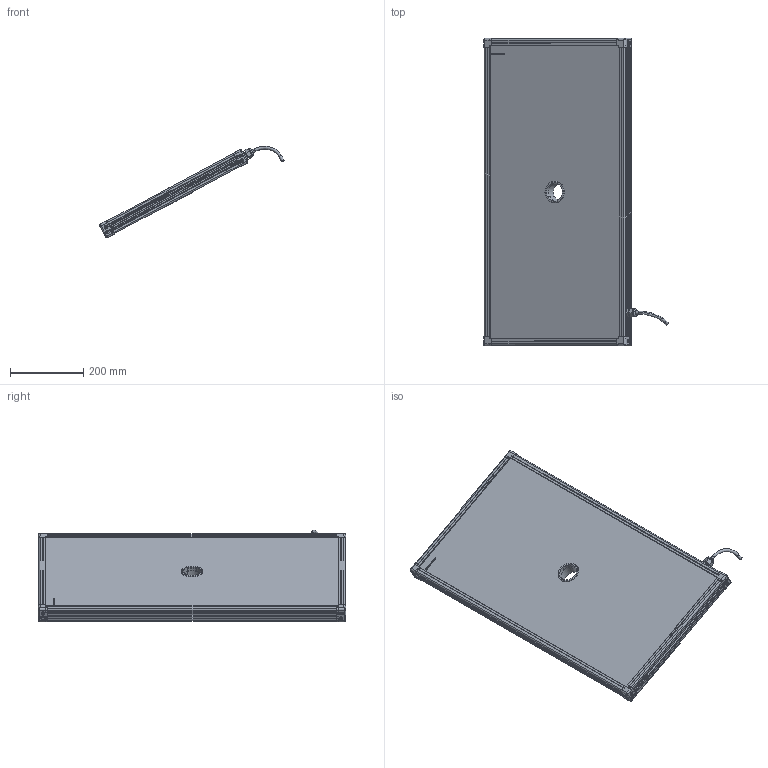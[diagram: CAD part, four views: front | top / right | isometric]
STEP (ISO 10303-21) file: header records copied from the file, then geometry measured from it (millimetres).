
FILE_DESCRIPTION (( 'STEP AP214' ), '1' );
FILE_NAME ('EFFI-FD-400-800-ZZZ-1M12P.STEP', '2021-06-22T08:38:21', ( '' ), ( '' ), 'SwSTEP 2.0', 'SolidWorks 2021', '' );
FILE_SCHEMA (( 'AUTOMOTIVE_DESIGN' ));
Length unit declared in the file: millimetre
Products named in the file (13): Assemblage Ø50; 001039; 001040; EFFI-FD-400-800-ZZZ-1M12P; profile Y_PERCE; M12 power_AVEC CABLE D8.1; Pièce13^EFFI-FD-XXX-YYY-ZZZ (1 connecteur) M12POWER Ø50; 000629; petite joue + vis; profile X_PERCE; 000590; petite joue
Assembly tree (19 placements, depth 3):
  EFFI-FD-400-800-ZZZ-1M12P
    profile X_PERCE  x2
    profile Y_PERCE
    profile Y_PERCE
    Pièce13^EFFI-FD-XXX-YYY-ZZZ (1 connecteur) M12POWER Ø50
    petite joue + vis  x4
      petite joue
      000629
    M12 power_AVEC CABLE D8.1
    Assemblage Ø50
      001039
      001040
      000590  x3
Bounding box: 502.94 x 839 x 249.75 mm (x, y, z)
Volume: 12701785.2 mm3; surface area: 1138214.6 mm2
Topology: 22 solids, 25 shells, 3946 faces, 10510 edges, 6901 vertices
Faces by surface type: plane 2446, cylinder 718, bspline 591, cone 154, torus 29, sphere 8
Entity records: 55870 total; most frequent: CARTESIAN_POINT 22540, ORIENTED_EDGE 6994, DIRECTION 5720, EDGE_CURVE 3499, LINE 2454, VECTOR 2454, VERTEX_POINT 2302, AXIS2_PLACEMENT_3D 1633
